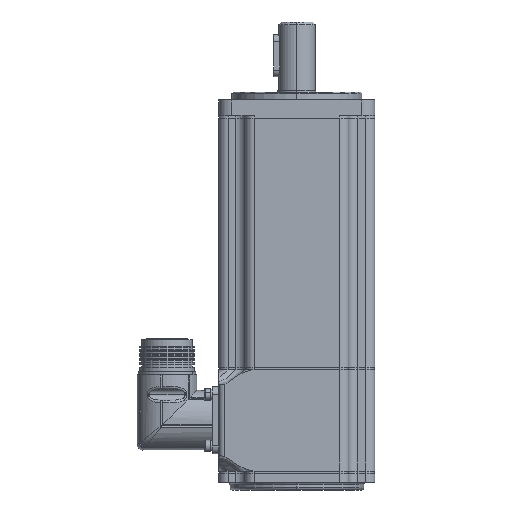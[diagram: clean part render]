
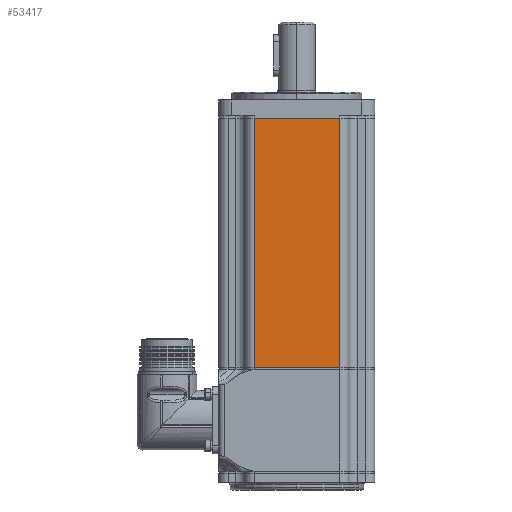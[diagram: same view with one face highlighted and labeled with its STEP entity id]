
A CAD part, left-side view. The second image highlights one B-rep face of the part: STEP entity #53417.
In plain terms, the highlighted planar face has unit normal (-1, 0, 0).
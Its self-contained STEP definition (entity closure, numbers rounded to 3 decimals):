
#1163 = VECTOR ( 'NONE', #2836, 1000. ) ;
#1212 = VECTOR ( 'NONE', #2916, 1000. ) ;
#2835 = CARTESIAN_POINT ( 'NONE',  ( -30., -20., -97. ) ) ;
#2836 = DIRECTION ( 'NONE',  ( 0., 1., 0. ) ) ;
#2915 = CARTESIAN_POINT ( 'NONE',  ( -30., -20., -1. ) ) ;
#2916 = DIRECTION ( 'NONE',  ( 0., 1., 0. ) ) ;
#8075 = VECTOR ( 'NONE', #31515, 1000. ) ;
#8413 = VECTOR ( 'NONE', #31489, 1000. ) ;
#11398 = AXIS2_PLACEMENT_3D ( 'NONE', #14167, #14168, #14169 ) ;
#13059 = FACE_OUTER_BOUND ( 'NONE', #67552, .T. ) ;
#14166 = PLANE ( 'NONE',  #11398 ) ;
#14167 = CARTESIAN_POINT ( 'NONE',  ( -30., -20., -97. ) ) ;
#14168 = DIRECTION ( 'NONE',  ( 1., 0., 0. ) ) ;
#14169 = DIRECTION ( 'NONE',  ( 0., 0., -1. ) ) ;
#22436 = CARTESIAN_POINT ( 'NONE',  ( -30., 16.5, -97. ) ) ;
#22437 = CARTESIAN_POINT ( 'NONE',  ( -30., -16.5, -97. ) ) ;
#22456 = CARTESIAN_POINT ( 'NONE',  ( -30., 16.5, -1. ) ) ;
#22457 = CARTESIAN_POINT ( 'NONE',  ( -30., -16.5, -1. ) ) ;
#24056 = EDGE_CURVE ( 'NONE', #58699, #58679, #71127, .T. ) ;
#24068 = EDGE_CURVE ( 'NONE', #58680, #58700, #71137, .T. ) ;
#31488 = CARTESIAN_POINT ( 'NONE',  ( -30., 16.5, -97. ) ) ;
#31489 = DIRECTION ( 'NONE',  ( 0., 0., -1. ) ) ;
#31514 = CARTESIAN_POINT ( 'NONE',  ( -30., -16.5, -97. ) ) ;
#31515 = DIRECTION ( 'NONE',  ( 0., 0., 1. ) ) ;
#45801 = ORIENTED_EDGE ( 'NONE', *, *, #48399, .T. ) ;
#45802 = ORIENTED_EDGE ( 'NONE', *, *, #48368, .F. ) ;
#45803 = ORIENTED_EDGE ( 'NONE', *, *, #24068, .T. ) ;
#45804 = ORIENTED_EDGE ( 'NONE', *, *, #24056, .T. ) ;
#48368 = EDGE_CURVE ( 'NONE', #58680, #58679, #71544, .T. ) ;
#48399 = EDGE_CURVE ( 'NONE', #58700, #58699, #71557, .T. ) ;
#53417 = ADVANCED_FACE ( 'NONE', ( #13059 ), #14166, .F. ) ;
#58679 = VERTEX_POINT ( 'NONE', #22436 ) ;
#58680 = VERTEX_POINT ( 'NONE', #22437 ) ;
#58699 = VERTEX_POINT ( 'NONE', #22456 ) ;
#58700 = VERTEX_POINT ( 'NONE', #22457 ) ;
#67552 = EDGE_LOOP ( 'NONE', ( #45802, #45803, #45801, #45804 ) ) ;
#71127 = LINE ( 'NONE', #31488, #8413 ) ;
#71137 = LINE ( 'NONE', #31514, #8075 ) ;
#71544 = LINE ( 'NONE', #2835, #1163 ) ;
#71557 = LINE ( 'NONE', #2915, #1212 ) ;
